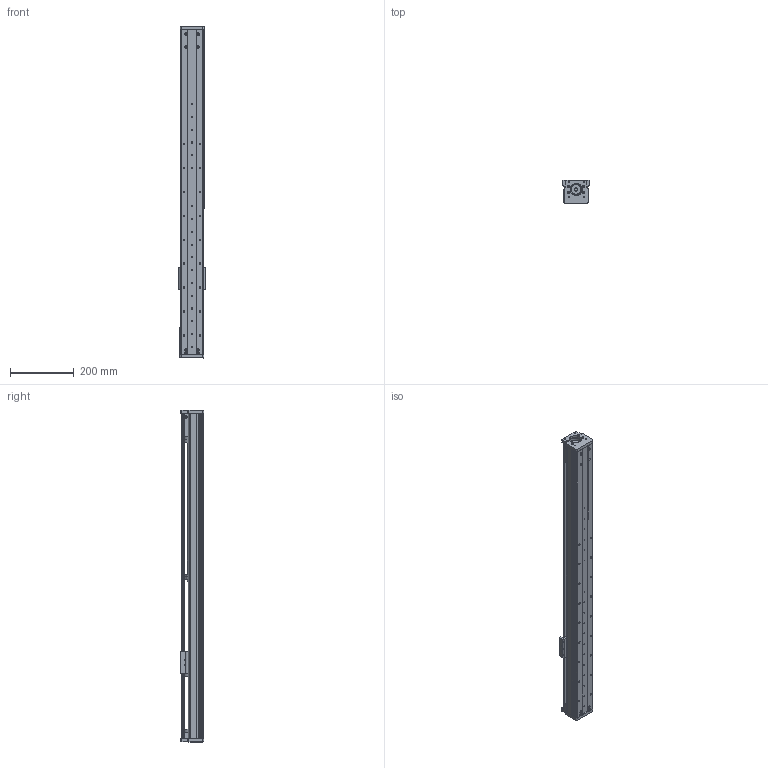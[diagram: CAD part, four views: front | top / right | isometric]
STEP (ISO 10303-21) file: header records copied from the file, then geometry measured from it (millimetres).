
FILE_DESCRIPTION (( 'STEP AP203' ), '1' );
FILE_NAME ('CF75-P800.STEP', '2016-02-22T03:15:38', ( 'Sky123.Org' ), ( 'Sky123.Org' ), 'SwSTEP 2.0', 'SolidWorks 2015', '' );
FILE_SCHEMA (( 'CONFIG_CONTROL_DESIGN' ));
Length unit declared in the file: millimetre
Products named in the file (17): CF75-P800; 30-42薊粣ん; MGW12賑輸; 75-57祭輛萇儂假蚾啣; SFU1605-3; 75嘐隅釱; 75粣創裔啣; 75支持侧板（2016.01.24改进）; 75滅袉蝶菜; 75盓厥釱; 75裔啣; angular contact ball bearings gb_Rolling bearings S7001 GB 292-94; SFU1616幗紩佪裝; 坶踡蹟譫M12-1; CF75-300俴最臏倰第; 75賑雄啣; MGW12H絳寢-俴最300
Assembly tree (20 placements, depth 2):
  CF75-P800
    MGW12賑輸
    SFU1605-3
    75粣創裔啣
    75滅袉蝶菜  x2
    75裔啣
    SFU1616幗紩佪裝
    CF75-300俴最臏倰第
    MGW12H絳寢-俴最300
    30-42薊粣ん
    75-57祭輛萇儂假蚾啣
    75嘐隅釱
    75支持侧板（2016.01.24改进）
    75盓厥釱
    angular contact ball bearings gb_Rolling bearings S7001 GB 292-94  x4
    坶踡蹟譫M12-1
    75賑雄啣
Bounding box: 82.03 x 73.93 x 1040.03 mm (x, y, z)
Volume: 2088444.5 mm3; surface area: 765221.8 mm2
Topology: 20 solids, 20 shells, 1541 faces, 4945 edges, 3297 vertices
Faces by surface type: cylinder 709, plane 505, torus 212, sphere 112, bspline 3
Entity records: 54756 total; most frequent: CARTESIAN_POINT 21219, ORIENTED_EDGE 6830, DIRECTION 6539, EDGE_CURVE 3415, AXIS2_PLACEMENT_3D 2516, VERTEX_POINT 2262, EDGE_LOOP 1515, VECTOR 1507
